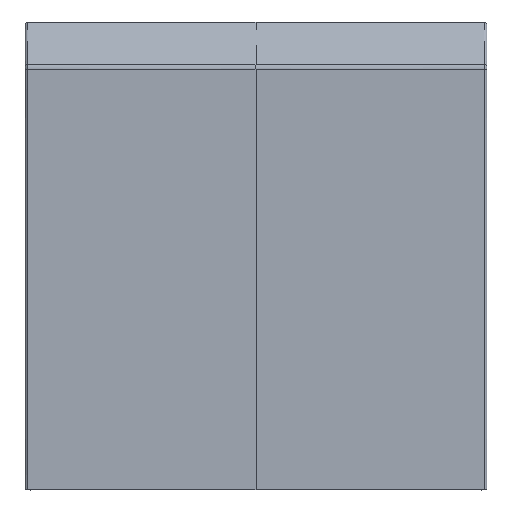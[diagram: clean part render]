
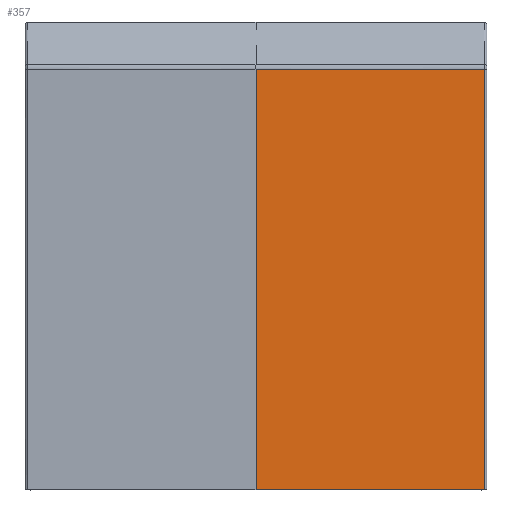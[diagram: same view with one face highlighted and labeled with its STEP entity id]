
A CAD part, front view. The second image highlights one B-rep face of the part: STEP entity #357.
In plain terms, the highlighted free-form (B-spline) face has degree [3, 3] with [4, 4] control points.
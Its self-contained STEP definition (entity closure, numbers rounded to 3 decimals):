
#12=(
BOUNDED_SURFACE()
B_SPLINE_SURFACE(3,3,((#3397,#3398,#3399,#3400),(#3401,#3402,#3403,#3404),
(#3405,#3406,#3407,#3408),(#3409,#3410,#3411,#3412)),.UNSPECIFIED.,.F.,.F.,
.F.)
B_SPLINE_SURFACE_WITH_KNOTS((4,4),(4,4),(0.,176.),(-324.54,
0.),.UNSPECIFIED.)
GEOMETRIC_REPRESENTATION_ITEM()
RATIONAL_B_SPLINE_SURFACE(((1.,1.,1.,1.),(1.,1.,1.,1.),(1.,1.,1.,1.),(1.,
1.,1.,1.)))
REPRESENTATION_ITEM($)
SURFACE()
);
#120=(
BOUNDED_CURVE()
B_SPLINE_CURVE(3,(#2668,#2669,#2670,#2671),.UNSPECIFIED.,.F.,.F.)
B_SPLINE_CURVE_WITH_KNOTS((4,4),(0.,176.),.UNSPECIFIED.)
CURVE()
GEOMETRIC_REPRESENTATION_ITEM()
RATIONAL_B_SPLINE_CURVE((1.,1.,1.,1.))
REPRESENTATION_ITEM($)
);
#121=(
BOUNDED_CURVE()
B_SPLINE_CURVE(3,(#2672,#2673,#2674,#2675),.UNSPECIFIED.,.F.,.F.)
B_SPLINE_CURVE_WITH_KNOTS((4,4),(0.,324.54),.UNSPECIFIED.)
CURVE()
GEOMETRIC_REPRESENTATION_ITEM()
RATIONAL_B_SPLINE_CURVE((1.,1.,1.,1.))
REPRESENTATION_ITEM($)
);
#179=(
BOUNDED_CURVE()
B_SPLINE_CURVE(3,(#3022,#3023,#3024,#3025),.UNSPECIFIED.,.F.,.F.)
B_SPLINE_CURVE_WITH_KNOTS((4,4),(-176.,0.),.UNSPECIFIED.)
CURVE()
GEOMETRIC_REPRESENTATION_ITEM()
RATIONAL_B_SPLINE_CURVE((1.,1.,1.,1.))
REPRESENTATION_ITEM($)
);
#357=ADVANCED_FACE($,(#515),#12,.T.);
#515=FACE_OUTER_BOUND($,#673,.T.);
#673=EDGE_LOOP($,(#878,#879,#880,#881));
#878=ORIENTED_EDGE($,*,*,#1659,.T.);
#879=ORIENTED_EDGE($,*,*,#1670,.T.);
#880=ORIENTED_EDGE($,*,*,#1586,.T.);
#881=ORIENTED_EDGE($,*,*,#1585,.T.);
#1585=EDGE_CURVE($,#1948,#1993,#120,.T.);
#1586=EDGE_CURVE($,#1949,#1948,#121,.T.);
#1659=EDGE_CURVE($,#1993,#1991,#2256,.T.);
#1670=EDGE_CURVE($,#1991,#1949,#179,.T.);
#1948=VERTEX_POINT($,#4176);
#1949=VERTEX_POINT($,#4177);
#1991=VERTEX_POINT($,#4219);
#1993=VERTEX_POINT($,#4221);
#2256=B_SPLINE_CURVE_WITH_KNOTS($,3,(#2966,#2967,#2968,#2969),.UNSPECIFIED.,
.F.,.F.,(4,4),(-324.54,0.),.UNSPECIFIED.);
#2668=CARTESIAN_POINT($,(176.,-61.,142.04));
#2669=CARTESIAN_POINT($,(117.333,-61.,142.04));
#2670=CARTESIAN_POINT($,(58.667,-61.,142.04));
#2671=CARTESIAN_POINT($,(0.,-61.,142.04));
#2672=CARTESIAN_POINT($,(176.,-61.,-182.5));
#2673=CARTESIAN_POINT($,(176.,-61.,-74.32));
#2674=CARTESIAN_POINT($,(176.,-61.,33.86));
#2675=CARTESIAN_POINT($,(176.,-61.,142.04));
#2966=CARTESIAN_POINT($,(0.,-61.,142.04));
#2967=CARTESIAN_POINT($,(0.,-61.,33.86));
#2968=CARTESIAN_POINT($,(0.,-61.,-74.32));
#2969=CARTESIAN_POINT($,(0.,-61.,-182.5));
#3022=CARTESIAN_POINT($,(0.,-61.,-182.5));
#3023=CARTESIAN_POINT($,(58.667,-61.,-182.5));
#3024=CARTESIAN_POINT($,(117.333,-61.,-182.5));
#3025=CARTESIAN_POINT($,(176.,-61.,-182.5));
#3397=CARTESIAN_POINT($,(176.,-61.,142.04));
#3398=CARTESIAN_POINT($,(176.,-61.,33.86));
#3399=CARTESIAN_POINT($,(176.,-61.,-74.32));
#3400=CARTESIAN_POINT($,(176.,-61.,-182.5));
#3401=CARTESIAN_POINT($,(117.333,-61.,142.04));
#3402=CARTESIAN_POINT($,(117.333,-61.,33.86));
#3403=CARTESIAN_POINT($,(117.333,-61.,-74.32));
#3404=CARTESIAN_POINT($,(117.333,-61.,-182.5));
#3405=CARTESIAN_POINT($,(58.667,-61.,142.04));
#3406=CARTESIAN_POINT($,(58.667,-61.,33.86));
#3407=CARTESIAN_POINT($,(58.667,-61.,-74.32));
#3408=CARTESIAN_POINT($,(58.667,-61.,-182.5));
#3409=CARTESIAN_POINT($,(0.,-61.,142.04));
#3410=CARTESIAN_POINT($,(0.,-61.,33.86));
#3411=CARTESIAN_POINT($,(0.,-61.,-74.32));
#3412=CARTESIAN_POINT($,(0.,-61.,-182.5));
#4176=CARTESIAN_POINT($,(176.,-61.,142.04));
#4177=CARTESIAN_POINT($,(176.,-61.,-182.5));
#4219=CARTESIAN_POINT($,(0.,-61.,-182.5));
#4221=CARTESIAN_POINT($,(0.,-61.,142.04));
